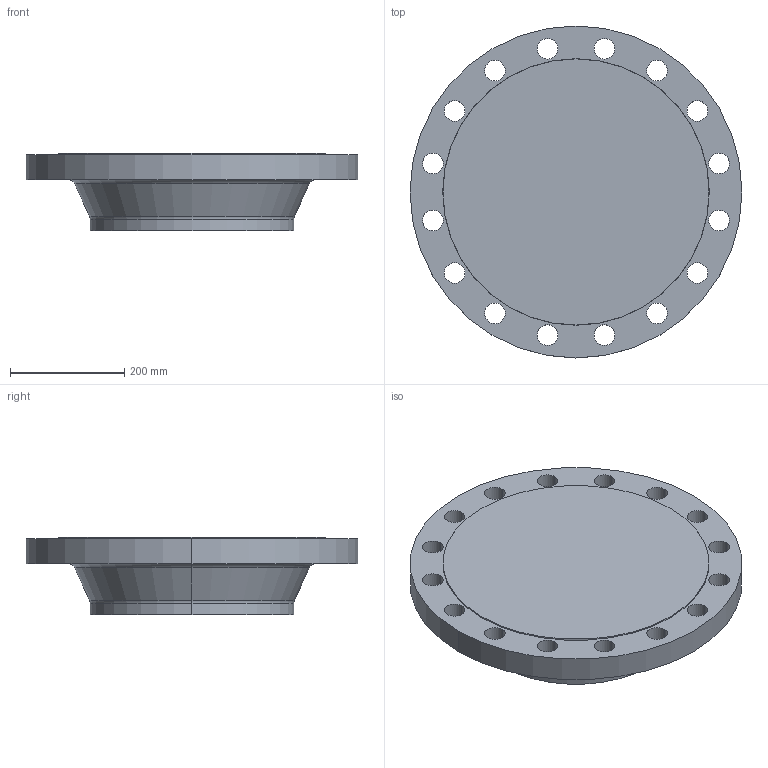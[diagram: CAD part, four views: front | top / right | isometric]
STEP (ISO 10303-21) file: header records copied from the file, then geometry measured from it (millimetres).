
FILE_DESCRIPTION (( 'STEP AP214' ), '1' );
FILE_NAME ('PN40 DN350 Type 21(ii) - Type B Face.STEP', '2019-01-05T21:44:39', ( '' ), ( '' ), 'SwSTEP 2.0', 'SolidWorks 2019', '' );
FILE_SCHEMA (( 'AUTOMOTIVE_DESIGN' ));
Length unit declared in the file: millimetre
Products named in the file (1): PN40 DN350 Type 21(ii) - Type B Face
Bounding box: 580 x 580 x 135 mm (x, y, z)
Volume: 21297521.8 mm3; surface area: 732679 mm2
Topology: 1 solids, 1 shells, 48 faces, 126 edges, 82 vertices
Faces by surface type: cylinder 36, torus 4, cone 4, plane 4
Entity records: 1626 total; most frequent: DIRECTION 310, CARTESIAN_POINT 257, ORIENTED_EDGE 252, AXIS2_PLACEMENT_3D 135, EDGE_CURVE 126, CIRCLE 86, EDGE_LOOP 82, VERTEX_POINT 82
